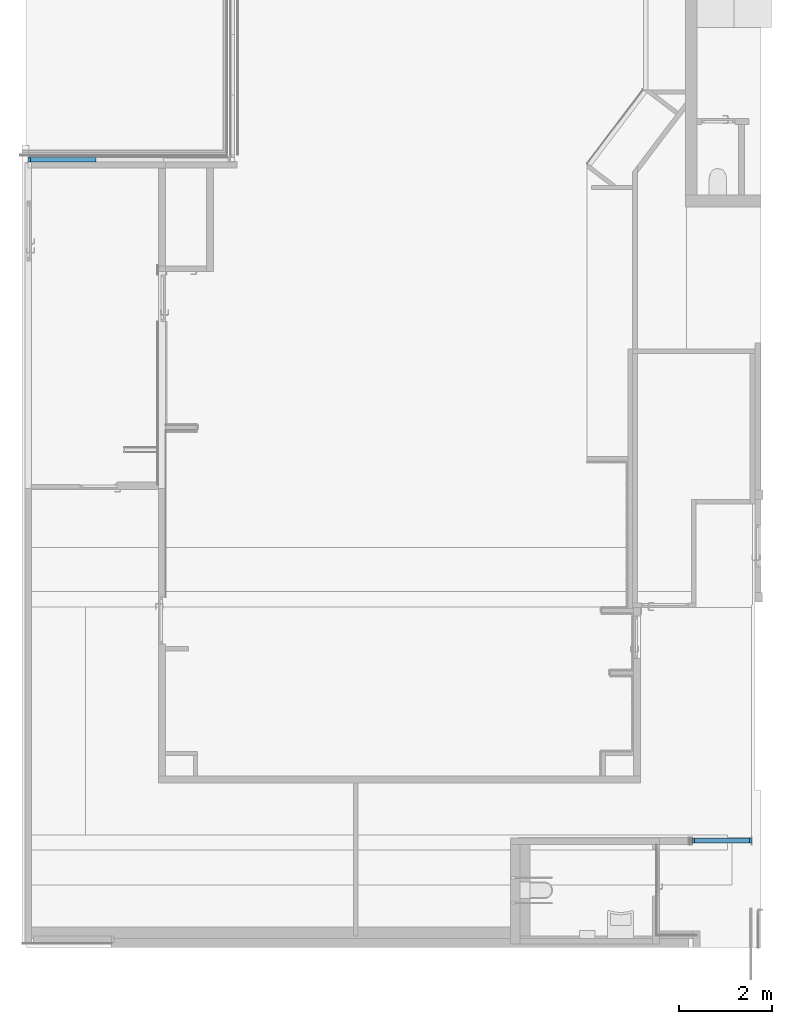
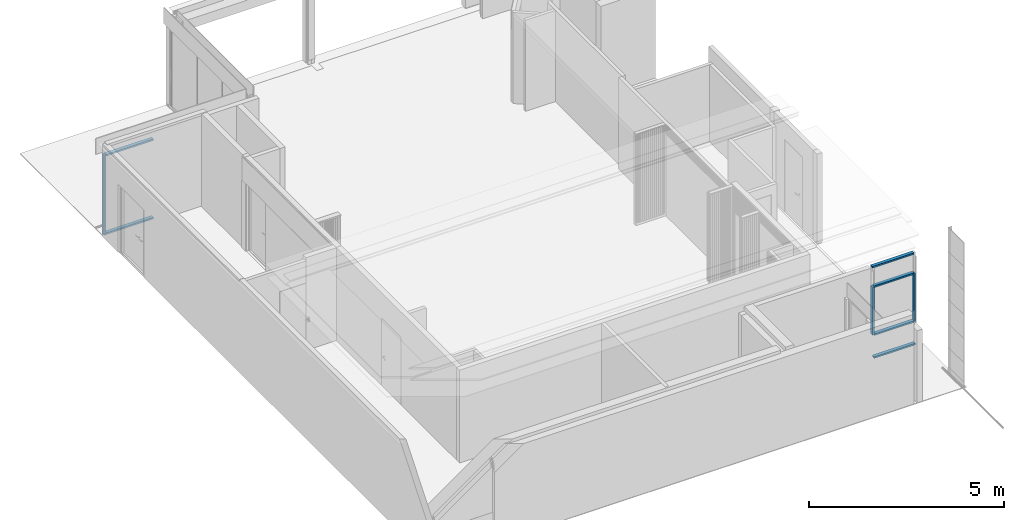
# One storey, part 2 of 37: 15 members, 3 elements without a shape of their own.
"""IFC2X3 building model written with IfcOpenShell, lengths in millimetres."""

from ifc_helpers import new_model, entity, si_unit, converted_unit, derived_unit, direction, frame, origin, origin_with_axes, origin_2d_with_axis, place, context, subcontext, project, spatial, rectangle, extrude, source, transform, mapped, material, type_object, element, aggregate, save


model = new_model("IFC2X3")

# Units and contexts
model_context = context("Model", 3, precision=0.01, world=frame((0.0, 4.29681676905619e-09, 0.0)), true_north=direction((4.01073788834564e-13, 1.0)))
plan_context = context("Plan", 3, precision=0.01, world=frame((0.0, 4.29681676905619e-09, 0.0)), true_north=direction((4.01073788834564e-13, 1.0)))
body_context = subcontext(model_context, "Body", "Model", "MODEL_VIEW")
ifc_project = project(units=[converted_unit("PLANEANGLEUNIT", "DEGREE", entity("IfcPositiveLengthMeasure", 0.0174532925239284), si_unit("PLANEANGLEUNIT", "RADIAN"), dimensions=[0, 0, 0, 0, 0, 0, 0]), si_unit("AREAUNIT", "SQUARE_METRE"), si_unit("LENGTHUNIT", "METRE", prefix="MILLI"), si_unit("MASSUNIT", "GRAM", prefix="KILO"), si_unit("POWERUNIT", "WATT"), si_unit("PRESSUREUNIT", "PASCAL"), si_unit("FORCEUNIT", "NEWTON", prefix="KILO"), si_unit("ELECTRICVOLTAGEUNIT", "VOLT"), si_unit("ELECTRICCURRENTUNIT", "AMPERE"), si_unit("THERMODYNAMICTEMPERATUREUNIT", "DEGREE_CELSIUS"), si_unit("TIMEUNIT", "SECOND"), si_unit("VOLUMEUNIT", "CUBIC_METRE"), derived_unit("LINEARVELOCITYUNIT", [(si_unit("LENGTHUNIT", "METRE"), 1), (si_unit("TIMEUNIT", "SECOND"), -1)]), derived_unit("VOLUMETRICFLOWRATEUNIT", [(si_unit("VOLUMEUNIT", "CUBIC_METRE"), 1), (si_unit("TIMEUNIT", "SECOND"), -1)]), derived_unit("THERMALTRANSMITTANCEUNIT", [(si_unit("POWERUNIT", "WATT"), 1), (si_unit("THERMODYNAMICTEMPERATUREUNIT", "KELVIN"), -1), (si_unit("AREAUNIT", "SQUARE_METRE"), -1)]), derived_unit("SOUNDPRESSUREUNIT", [(si_unit("PRESSUREUNIT", "PASCAL"), 1)])], contexts=[model_context, plan_context])

# Site, building, storey
site_placement = place(None, origin_with_axes())
site = spatial("IfcSite", under=ifc_project, at=site_placement, Name="ENGM", CompositionType="ELEMENT")
building_placement = place(site_placement, origin_with_axes())
building = spatial("IfcBuilding", under=site, at=building_placement, Name="TS", CompositionType="ELEMENT")
storey_placement = place(building_placement, frame((0.0, 0.0, 210900.0), z_axis=(0.0, 0.0, 1.0), x_axis=(1.0, 0.0, 0.0)))
storey = spatial("IfcBuildingStorey", under=building, at=storey_placement, Name="Nivå F", CompositionType="ELEMENT", Elevation=210900.0)

# Curtain wall, member
curtain_wall_type_1 = type_object("IfcCurtainWallType", Name="Curtain Wall:A242 - IGV 50 x 60mm (Glass 10mm)", PredefinedType="NOTDEFINED")
curtain_wall_1_placement = place(storey_placement, frame((0.0, 0.0, -210900.0), z_axis=(0.0, 0.0, 1.0), x_axis=(1.0, 0.0, 0.0)))
curtain_wall_1 = element("IfcCurtainWall", 1, at=curtain_wall_1_placement, inside=storey, type_object=curtain_wall_type_1, Name="Curtain Wall:A242 - IGV 50 x 60mm (Glass 10mm)", ObjectType="Curtain Wall:A242 - IGV 50 x 60mm (Glass 10mm)")
ifc_material_1 = material(Name="T2_Metal_Aluminium")
member_type_1 = type_object("IfcMemberType", Name="Rectangular Mullion:A233 - Sprosse 50 mm - 060(post)+40(dekkprofil)", PredefinedType="MULLION", material=ifc_material_1)
shared_shape_1 = source(origin(), body_context, "Body", "SweptSolid", [
    extrude(rectangle(XDim=50.0, YDim=99.9999999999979, at=origin_2d_with_axis()), frame((-25.0, 10.0, -1224.01249999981), z_axis=(0.0, 0.0, 1.0), x_axis=(-1.0, 0.0, 0.0)), (0.0, 0.0, 1.0), 1224.01249999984),
])
member_1_placement = place(curtain_wall_1_placement, frame((536069.999999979, 443085.000000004, 213800.0), z_axis=(1.0, 0.0, 0.0), x_axis=(0.0, 0.0, 1.0)))
member_1 = element("IfcMember", 2, at=member_1_placement, type_object=member_type_1, material=ifc_material_1, Name="Rectangular Mullion:A233 - Sprosse 50 mm - 060(post)+40(dekkprofil)", ObjectType="Rectangular Mullion:A233 - Sprosse 50 mm - 060(post)+40(dekkprofil)", context=body_context, shape_type="MappedRepresentation", body=[
    mapped(shared_shape_1, transform((0.0, 0.0, 0.0), scale=1.0)),
])

curtain_wall_2_placement = place(storey_placement, frame((0.0, 0.0, -210900.0), z_axis=(0.0, 0.0, 1.0), x_axis=(1.0, 0.0, 0.0)))
curtain_wall_2 = element("IfcCurtainWall", 3, at=curtain_wall_2_placement, inside=storey, type_object=curtain_wall_type_1, Name="Curtain Wall:A242 - IGV 50 x 60mm (Glass 10mm)", ObjectType="Curtain Wall:A242 - IGV 50 x 60mm (Glass 10mm)")
member_2_placement = place(curtain_wall_2_placement, frame((536069.999999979, 443085.000000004, 213800.0), z_axis=(1.0, 0.0, 0.0), x_axis=(0.0, 0.0, 1.0)))
member_2 = element("IfcMember", 4, at=member_2_placement, type_object=member_type_1, material=ifc_material_1, Name="Rectangular Mullion:A233 - Sprosse 50 mm - 060(post)+40(dekkprofil)", ObjectType="Rectangular Mullion:A233 - Sprosse 50 mm - 060(post)+40(dekkprofil)", context=body_context, shape_type="MappedRepresentation", body=[
    mapped(shared_shape_1, transform((0.0, 0.0, 0.0), scale=1.0)),
])

# Member
member_type_2 = type_object("IfcMemberType", Name="Rectangular Mullion:A233 - Sprosse 50 mm - 060(post)+40(dekkprofil)", PredefinedType="MULLION", material=ifc_material_1)
shared_shape_2 = source(origin(), body_context, "Body", "SweptSolid", [
    extrude(rectangle(XDim=99.9999999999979, YDim=50.0, at=origin_2d_with_axis()), frame((-25.0, 10.0, -1224.01249999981), z_axis=(0.0, 0.0, 1.0), x_axis=(0.0, -1.0, 0.0)), (0.0, 0.0, 1.0), 1224.01249999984),
])
member_3_placement = place(curtain_wall_1_placement, frame((534895.987499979, 443085.000000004, 210910.0), z_axis=(-1.0, 0.0, 0.0), x_axis=(0.0, 0.0, -1.0)))
member_3 = element("IfcMember", 5, at=member_3_placement, type_object=member_type_2, material=ifc_material_1, Name="Rectangular Mullion:A233 - Sprosse 50 mm - 060(post)+40(dekkprofil)", ObjectType="Rectangular Mullion:A233 - Sprosse 50 mm - 060(post)+40(dekkprofil)", context=body_context, shape_type="MappedRepresentation", body=[
    mapped(shared_shape_2, transform((0.0, 0.0, 0.0), scale=1.0)),
])

member_4_placement = place(curtain_wall_2_placement, frame((534895.987499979, 443085.000000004, 210910.0), z_axis=(-1.0, 0.0, 0.0), x_axis=(0.0, 0.0, -1.0)))
member_4 = element("IfcMember", 6, at=member_4_placement, type_object=member_type_2, material=ifc_material_1, Name="Rectangular Mullion:A233 - Sprosse 50 mm - 060(post)+40(dekkprofil)", ObjectType="Rectangular Mullion:A233 - Sprosse 50 mm - 060(post)+40(dekkprofil)", context=body_context, shape_type="MappedRepresentation", body=[
    mapped(shared_shape_2, transform((0.0, 0.0, 0.0), scale=1.0)),
])

member_type_3 = type_object("IfcMemberType", Name="Rectangular Mullion:A233 - Sprosse 50 mm - 060(post)+40(dekkprofil)", PredefinedType="MULLION", material=ifc_material_1)
shared_shape_3 = source(origin(), body_context, "Body", "SweptSolid", [
    extrude(rectangle(XDim=50.0, YDim=99.9999999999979, at=origin_2d_with_axis()), frame((-25.0, 10.0, -1500.0), z_axis=(0.0, 0.0, 1.0), x_axis=(-1.0, 0.0, 0.0)), (0.0, 0.0, 1.0), 1500.00000000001),
])
member_5_placement = place(curtain_wall_1_placement, frame((536119.999999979, 443085.000000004, 211650.0), z_axis=(0.0, 0.0, -1.0), x_axis=(1.0, 0.0, 0.0)))
member_5 = element("IfcMember", 7, at=member_5_placement, type_object=member_type_3, material=ifc_material_1, Name="Rectangular Mullion:A233 - Sprosse 50 mm - 060(post)+40(dekkprofil)", ObjectType="Rectangular Mullion:A233 - Sprosse 50 mm - 060(post)+40(dekkprofil)", context=body_context, shape_type="MappedRepresentation", body=[
    mapped(shared_shape_3, transform((0.0, 0.0, 0.0), scale=1.0)),
])

member_6_placement = place(curtain_wall_2_placement, frame((536119.999999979, 443085.000000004, 211650.0), z_axis=(0.0, 0.0, -1.0), x_axis=(1.0, 0.0, 0.0)))
member_6 = element("IfcMember", 8, at=member_6_placement, type_object=member_type_3, material=ifc_material_1, Name="Rectangular Mullion:A233 - Sprosse 50 mm - 060(post)+40(dekkprofil)", ObjectType="Rectangular Mullion:A233 - Sprosse 50 mm - 060(post)+40(dekkprofil)", context=body_context, shape_type="MappedRepresentation", body=[
    mapped(shared_shape_3, transform((0.0, 0.0, 0.0), scale=1.0)),
])

member_type_4 = type_object("IfcMemberType", Name="Rectangular Mullion:A233 - Sprosse 50 mm - 060(post)+40(dekkprofil)", PredefinedType="MULLION", material=ifc_material_1)
shared_shape_4 = source(origin(), body_context, "Body", "SweptSolid", [
    extrude(rectangle(XDim=50.0, YDim=99.9999999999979, at=origin_2d_with_axis()), frame((0.0, 10.0, -1174.01249999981), z_axis=(0.0, 0.0, 1.0), x_axis=(-1.0, 0.0, 0.0)), (0.0, 0.0, 1.0), 1174.01249999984),
])
member_7_placement = place(curtain_wall_1_placement, frame((536069.999999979, 443085.000000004, 211650.0), z_axis=(1.0, 0.0, 0.0), x_axis=(0.0, 0.0, 1.0)))
member_7 = element("IfcMember", 9, at=member_7_placement, type_object=member_type_4, material=ifc_material_1, Name="Rectangular Mullion:A233 - Sprosse 50 mm - 060(post)+40(dekkprofil)", ObjectType="Rectangular Mullion:A233 - Sprosse 50 mm - 060(post)+40(dekkprofil)", context=body_context, shape_type="MappedRepresentation", body=[
    mapped(shared_shape_4, transform((0.0, 0.0, 0.0), scale=1.0)),
])

member_8_placement = place(curtain_wall_1_placement, frame((536069.999999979, 443085.000000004, 213150.0), z_axis=(1.0, 0.0, 0.0), x_axis=(0.0, 0.0, 1.0)))
member_8 = element("IfcMember", 10, at=member_8_placement, type_object=member_type_4, material=ifc_material_1, Name="Rectangular Mullion:A233 - Sprosse 50 mm - 060(post)+40(dekkprofil)", ObjectType="Rectangular Mullion:A233 - Sprosse 50 mm - 060(post)+40(dekkprofil)", context=body_context, shape_type="MappedRepresentation", body=[
    mapped(shared_shape_4, transform((0.0, 0.0, 0.0), scale=1.0)),
])

member_9_placement = place(curtain_wall_2_placement, frame((536069.999999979, 443085.000000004, 211650.0), z_axis=(1.0, 0.0, 0.0), x_axis=(0.0, 0.0, 1.0)))
member_9 = element("IfcMember", 11, at=member_9_placement, type_object=member_type_4, material=ifc_material_1, Name="Rectangular Mullion:A233 - Sprosse 50 mm - 060(post)+40(dekkprofil)", ObjectType="Rectangular Mullion:A233 - Sprosse 50 mm - 060(post)+40(dekkprofil)", context=body_context, shape_type="MappedRepresentation", body=[
    mapped(shared_shape_4, transform((0.0, 0.0, 0.0), scale=1.0)),
])

member_10_placement = place(curtain_wall_2_placement, frame((536069.999999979, 443085.000000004, 213150.0), z_axis=(1.0, 0.0, 0.0), x_axis=(0.0, 0.0, 1.0)))
member_10 = element("IfcMember", 12, at=member_10_placement, type_object=member_type_4, material=ifc_material_1, Name="Rectangular Mullion:A233 - Sprosse 50 mm - 060(post)+40(dekkprofil)", ObjectType="Rectangular Mullion:A233 - Sprosse 50 mm - 060(post)+40(dekkprofil)", context=body_context, shape_type="MappedRepresentation", body=[
    mapped(shared_shape_4, transform((0.0, 0.0, 0.0), scale=1.0)),
])

member_type_5 = type_object("IfcMemberType", Name="Rectangular Mullion:A233 - Sprosse 50 mm - 060(post)+40(dekkprofil)", PredefinedType="MULLION", material=ifc_material_1)
shared_shape_5 = source(origin(), body_context, "Body", "SweptSolid", [
    extrude(rectangle(XDim=99.9999999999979, YDim=50.0, at=origin_2d_with_axis()), frame((-25.0, 10.0, -1500.0), z_axis=(0.0, 0.0, 1.0), x_axis=(0.0, -1.0, 0.0)), (0.0, 0.0, 1.0), 1500.00000000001),
])
member_11_placement = place(curtain_wall_1_placement, frame((534845.987499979, 443085.000000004, 213150.0), z_axis=(0.0, 0.0, 1.0), x_axis=(-1.0, 0.0, 0.0)))
member_11 = element("IfcMember", 13, at=member_11_placement, type_object=member_type_5, material=ifc_material_1, Name="Rectangular Mullion:A233 - Sprosse 50 mm - 060(post)+40(dekkprofil)", ObjectType="Rectangular Mullion:A233 - Sprosse 50 mm - 060(post)+40(dekkprofil)", context=body_context, shape_type="MappedRepresentation", body=[
    mapped(shared_shape_5, transform((0.0, 0.0, 0.0), scale=1.0)),
])

aggregate(curtain_wall_1, [member_1, member_3, member_5, member_7, member_11, member_8])

member_12_placement = place(curtain_wall_2_placement, frame((534845.987499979, 443085.000000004, 213150.0), z_axis=(0.0, 0.0, 1.0), x_axis=(-1.0, 0.0, 0.0)))
member_12 = element("IfcMember", 14, at=member_12_placement, type_object=member_type_5, material=ifc_material_1, Name="Rectangular Mullion:A233 - Sprosse 50 mm - 060(post)+40(dekkprofil)", ObjectType="Rectangular Mullion:A233 - Sprosse 50 mm - 060(post)+40(dekkprofil)", context=body_context, shape_type="MappedRepresentation", body=[
    mapped(shared_shape_5, transform((0.0, 0.0, 0.0), scale=1.0)),
])

aggregate(curtain_wall_2, [member_2, member_4, member_6, member_9, member_12, member_10])

# Curtain wall, members
curtain_wall_type_2 = type_object("IfcCurtainWallType", Name="Curtain Wall:A242 - IGV - Glass - 10 mm", PredefinedType="NOTDEFINED")
curtain_wall_3_placement = place(storey_placement, frame((0.0, 0.0, -210900.0), z_axis=(0.0, 0.0, 1.0), x_axis=(1.0, 0.0, 0.0)))
curtain_wall_3 = element("IfcCurtainWall", 15, at=curtain_wall_3_placement, inside=storey, type_object=curtain_wall_type_2, Name="Curtain Wall:A242 - IGV - Glass - 10 mm", ObjectType="Curtain Wall:A242 - IGV - Glass - 10 mm")
ifc_material_2 = material(Name="Metal - Aluminium")
member_type_6 = type_object("IfcMemberType", Name="Rectangular Mullion:A233 - Sprosse rektangulær - 50 x 100 mm", PredefinedType="MULLION", material=ifc_material_2)
shared_shape_6 = source(origin(), body_context, "Body", "SweptSolid", [
    extrude(rectangle(XDim=50.0, YDim=100.0, at=origin_2d_with_axis()), frame((-25.0, 50.0, -1407.50000000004), z_axis=(0.0, 0.0, 1.0), x_axis=(-1.0, 0.0, 0.0)), (0.0, 0.0, 1.0), 1407.50000000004),
])
member_13_placement = place(curtain_wall_3_placement, frame((522037.500000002, 457749.999999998, 213405.0), z_axis=(1.0, 0.0, 0.0), x_axis=(0.0, 0.0, 1.0)))
member_13 = element("IfcMember", 16, at=member_13_placement, type_object=member_type_6, material=ifc_material_2, Name="Rectangular Mullion:A233 - Sprosse rektangulær - 50 x 100 mm", ObjectType="Rectangular Mullion:A233 - Sprosse rektangulær - 50 x 100 mm", context=body_context, shape_type="MappedRepresentation", body=[
    mapped(shared_shape_6, transform((0.0, 0.0, 0.0), scale=1.0)),
])
member_type_7 = type_object("IfcMemberType", Name="Rectangular Mullion:A233 - Sprosse rektangulær - 50 x 100 mm", PredefinedType="MULLION", material=ifc_material_2)
shared_shape_7 = source(origin(), body_context, "Body", "SweptSolid", [
    extrude(rectangle(XDim=50.0, YDim=100.0, at=origin_2d_with_axis()), frame((-25.0, 50.0, -2500.0), z_axis=(0.0, 0.0, 1.0), x_axis=(-1.0, 0.0, 0.0)), (0.0, 0.0, 1.0), 2499.99999999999),
])
member_14_placement = place(curtain_wall_3_placement, frame((520580.000000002, 457749.999999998, 213405.0), z_axis=(0.0, 0.0, 1.0), x_axis=(-1.0, 0.0, 0.0)))
member_14 = element("IfcMember", 17, at=member_14_placement, type_object=member_type_7, material=ifc_material_2, Name="Rectangular Mullion:A233 - Sprosse rektangulær - 50 x 100 mm", ObjectType="Rectangular Mullion:A233 - Sprosse rektangulær - 50 x 100 mm", context=body_context, shape_type="MappedRepresentation", body=[
    mapped(shared_shape_7, transform((0.0, 0.0, 0.0), scale=1.0)),
])
member_type_8 = type_object("IfcMemberType", Name="Rectangular Mullion:A233 - Sprosse rektangulær - 50 x 100 mm", PredefinedType="MULLION", material=ifc_material_2)
shared_shape_8 = source(origin(), body_context, "Body", "SweptSolid", [
    extrude(rectangle(XDim=50.0, YDim=100.0, at=origin_2d_with_axis()), frame((-25.0, 50.0, -1407.50000000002), z_axis=(0.0, 0.0, 1.0), x_axis=(-1.0, 0.0, 0.0)), (0.0, 0.0, 1.0), 1407.50000000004),
])
member_15_placement = place(curtain_wall_3_placement, frame((520630.000000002, 457749.999999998, 210905.0), z_axis=(-1.0, 0.0, 0.0), x_axis=(0.0, 0.0, -1.0)))
member_15 = element("IfcMember", 18, at=member_15_placement, type_object=member_type_8, material=ifc_material_2, Name="Rectangular Mullion:A233 - Sprosse rektangulær - 50 x 100 mm", ObjectType="Rectangular Mullion:A233 - Sprosse rektangulær - 50 x 100 mm", context=body_context, shape_type="MappedRepresentation", body=[
    mapped(shared_shape_8, transform((0.0, 0.0, 0.0), scale=1.0)),
])
aggregate(curtain_wall_3, [member_13, member_14, member_15])

save(model, "model.ifc")
